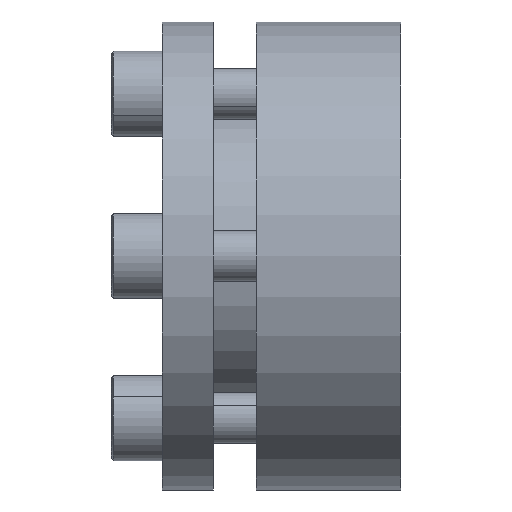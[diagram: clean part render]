
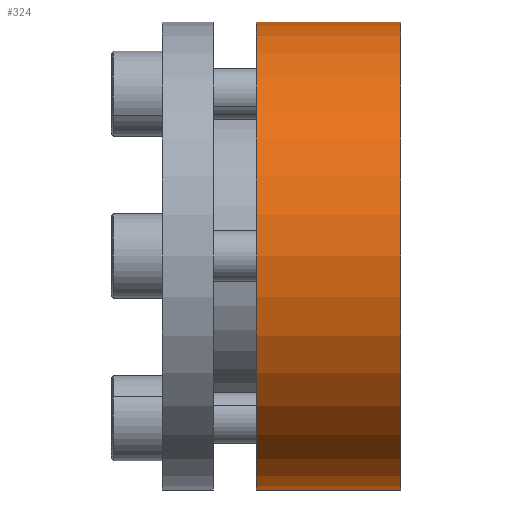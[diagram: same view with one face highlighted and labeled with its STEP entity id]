
A CAD part, front view. The second image highlights one B-rep face of the part: STEP entity #324.
In plain terms, the highlighted cylindrical face has radius 27.5 mm (diameter 55 mm), a partial arc.
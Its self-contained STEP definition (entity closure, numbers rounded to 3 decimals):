
#56 = VERTEX_POINT ( 'NONE', #1550 ) ;
#60 = VERTEX_POINT ( 'NONE', #1544 ) ;
#62 = EDGE_CURVE ( 'NONE', #64, #60, #1543, .T. ) ;
#63 = VERTEX_POINT ( 'NONE', #1539 ) ;
#64 = VERTEX_POINT ( 'NONE', #1538 ) ;
#236 = EDGE_CURVE ( 'NONE', #63, #56, #1904, .T. ) ;
#260 = EDGE_CURVE ( 'NONE', #64, #63, #1920, .T. ) ;
#271 = EDGE_LOOP ( 'NONE', ( #325, #326, #327, #328 ) ) ;
#324 = ADVANCED_FACE ( 'NONE', ( #2018 ), #2017, .T. ) ;
#325 = ORIENTED_EDGE ( 'NONE', *, *, #62, .F. ) ;
#326 = ORIENTED_EDGE ( 'NONE', *, *, #260, .T. ) ;
#327 = ORIENTED_EDGE ( 'NONE', *, *, #236, .T. ) ;
#328 = ORIENTED_EDGE ( 'NONE', *, *, #329, .F. ) ;
#329 = EDGE_CURVE ( 'NONE', #60, #56, #2011, .T. ) ;
#1538 = CARTESIAN_POINT ( 'NONE',  ( 28., 0., -27.5 ) ) ;
#1539 = CARTESIAN_POINT ( 'NONE',  ( 28., 0., 27.5 ) ) ;
#1540 = DIRECTION ( 'NONE',  ( -1., 0., 0. ) ) ;
#1541 = VECTOR ( 'NONE', #1540, 1000. ) ;
#1542 = CARTESIAN_POINT ( 'NONE',  ( 0., 0., -27.5 ) ) ;
#1543 = LINE ( 'NONE', #1542, #1541 ) ;
#1544 = CARTESIAN_POINT ( 'NONE',  ( 11., 0., -27.5 ) ) ;
#1550 = CARTESIAN_POINT ( 'NONE',  ( 11., 0., 27.5 ) ) ;
#1901 = DIRECTION ( 'NONE',  ( -1., 0., 0. ) ) ;
#1902 = VECTOR ( 'NONE', #1901, 1000. ) ;
#1903 = CARTESIAN_POINT ( 'NONE',  ( 0., 0., 27.5 ) ) ;
#1904 = LINE ( 'NONE', #1903, #1902 ) ;
#1916 = DIRECTION ( 'NONE',  ( 0., 0., 1. ) ) ;
#1917 = DIRECTION ( 'NONE',  ( -1., 0., 0. ) ) ;
#1918 = CARTESIAN_POINT ( 'NONE',  ( 28., 0., 0. ) ) ;
#1919 = AXIS2_PLACEMENT_3D ( 'NONE', #1918, #1917, #1916 ) ;
#1920 = CIRCLE ( 'NONE', #1919, 27.5 ) ;
#2008 = DIRECTION ( 'NONE',  ( 0., 0., 1. ) ) ;
#2009 = DIRECTION ( 'NONE',  ( -1., 0., 0. ) ) ;
#2010 = AXIS2_PLACEMENT_3D ( 'NONE', #2016, #2009, #2008 ) ;
#2011 = CIRCLE ( 'NONE', #2010, 27.5 ) ;
#2012 = DIRECTION ( 'NONE',  ( 0., 0., 1. ) ) ;
#2013 = DIRECTION ( 'NONE',  ( -1., 0., 0. ) ) ;
#2014 = CARTESIAN_POINT ( 'NONE',  ( 0., 0., 0. ) ) ;
#2015 = AXIS2_PLACEMENT_3D ( 'NONE', #2014, #2013, #2012 ) ;
#2016 = CARTESIAN_POINT ( 'NONE',  ( 11., 0., 0. ) ) ;
#2017 = CYLINDRICAL_SURFACE ( 'NONE', #2015, 27.5 ) ;
#2018 = FACE_OUTER_BOUND ( 'NONE', #271, .T. ) ;
